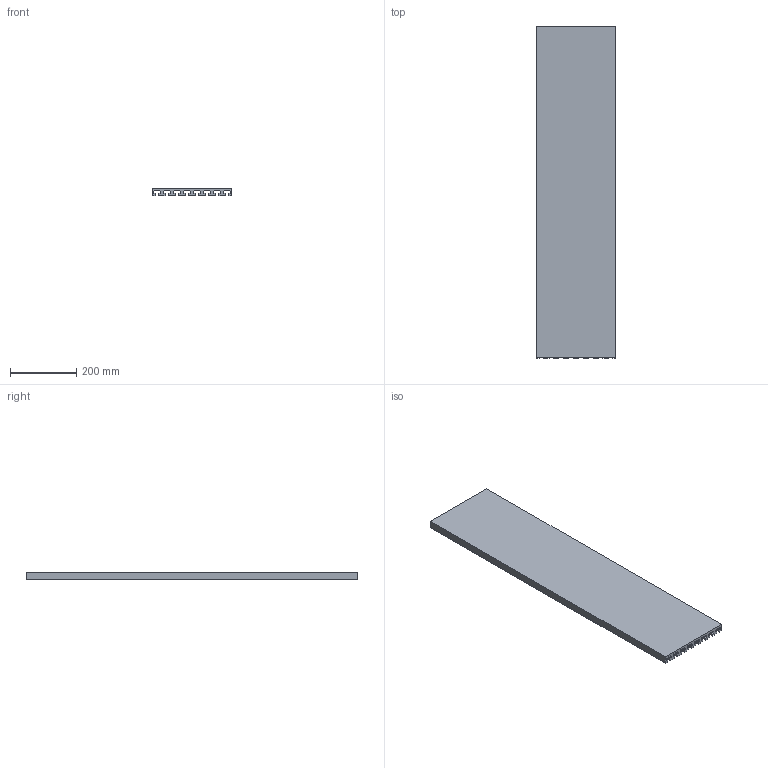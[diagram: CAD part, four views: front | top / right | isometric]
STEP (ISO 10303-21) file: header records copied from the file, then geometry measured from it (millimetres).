
FILE_DESCRIPTION (( 'STEP AP214' ), '1' );
FILE_NAME ('24õ240.STEP', '2022-08-10T06:36:54', ( '' ), ( '' ), 'SwSTEP 2.0', 'SolidWorks 2020', '' );
FILE_SCHEMA (( 'AUTOMOTIVE_DESIGN' ));
Length unit declared in the file: millimetre
Products named in the file (1): 24õ240
Bounding box: 240 x 1000 x 24 mm (x, y, z)
Volume: 3773516.8 mm3; surface area: 931419.3 mm2
Topology: 1 solids, 1 shells, 269 faces, 801 edges, 534 vertices
Faces by surface type: plane 165, cylinder 104
Entity records: 9077 total; most frequent: CARTESIAN_POINT 1605, ORIENTED_EDGE 1602, DIRECTION 1549, EDGE_CURVE 801, VECTOR 593, LINE 593, VERTEX_POINT 534, AXIS2_PLACEMENT_3D 478
